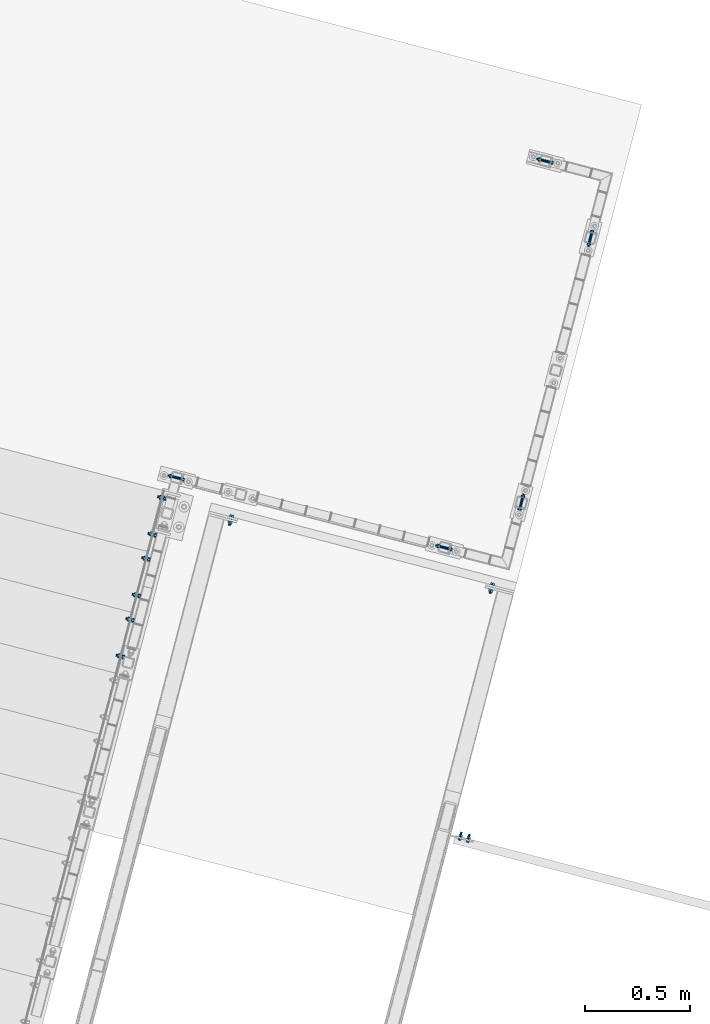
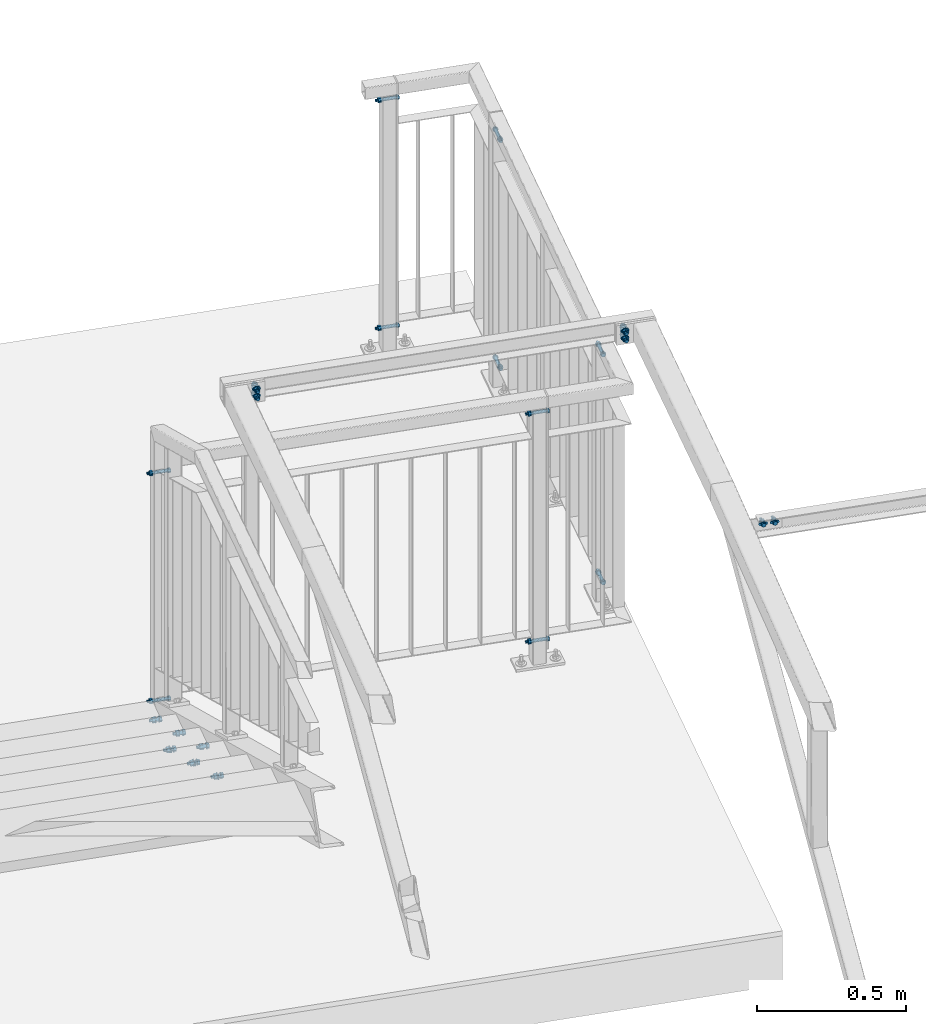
# One storey, part 163 of 169: 19 mechanical fasteners, 8 elements without a shape of their own.
"""IFC2X3 building model written with IfcOpenShell, lengths in millimetres."""

from ifc_helpers import new_model, si_unit, frame, frame_2d, origin_with_axes, origin_2d_with_axis, place, context, subcontext, project, spatial, polyline, circle_curve, parameter, trimmed, segment, composite_curve, circle, outline, extrude, source, transform, mapped, material, type_object, element, aggregate, save


model = new_model("IFC2X3")

# Units and contexts
model_context = context("Model", 3, precision=1e-05, world=origin_with_axes())
body_context = subcontext(model_context, "Body", "Model", "MODEL_VIEW")
ifc_project = project(units=[si_unit("LENGTHUNIT", "METRE", prefix="MILLI"), si_unit("AREAUNIT", "SQUARE_METRE"), si_unit("VOLUMEUNIT", "CUBIC_METRE"), si_unit("MASSUNIT", "GRAM", prefix="KILO"), si_unit("TIMEUNIT", "SECOND"), si_unit("PLANEANGLEUNIT", "RADIAN"), si_unit("SOLIDANGLEUNIT", "STERADIAN"), si_unit("THERMODYNAMICTEMPERATUREUNIT", "DEGREE_CELSIUS"), si_unit("LUMINOUSINTENSITYUNIT", "LUMEN")], contexts=[model_context])

# Site, building, storey
site_placement = place(None, origin_with_axes())
site = spatial("IfcSite", under=ifc_project, at=site_placement, Name="Undefined", CompositionType="ELEMENT")
building_placement = place(site_placement, origin_with_axes())
building = spatial("IfcBuilding", under=site, at=building_placement, Name="Undefined", CompositionType="ELEMENT")
storey_placement = place(building_placement, origin_with_axes())
storey = spatial("IfcBuildingStorey", under=building, at=storey_placement, Name="Undefined", CompositionType="ELEMENT", Elevation=0.0)

# Assembly, mechanical fasteners
assembly_1_placement = place(storey_placement, origin_with_axes())
assembly_1 = element("IfcElementAssembly", 1, at=assembly_1_placement, inside=storey, Name="Steel Assembly", AssemblyPlace="NOTDEFINED", PredefinedType="RIGID_FRAME")
ifc_material = material(Name="Undefined")
discrete_accessory_type = type_object("IfcDiscreteAccessoryType", Name="Bolt assembly")
shared_shape_1 = source(origin_with_axes(), body_context, "Body", "SweptSolid", [
    extrude(circle(Radius=6.5, at=origin_2d_with_axis()), frame((0.0, 4.89999999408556, 0.0), z_axis=(0.0, 1.0, 0.0), x_axis=(1.0, 0.0, 0.0)), (0.0, 0.0, 1.0), 50.1),
    extrude(circle(Radius=6.5, at=origin_2d_with_axis()), frame((0.0, 0.100000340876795, 0.0), z_axis=(0.0, 1.0, 0.0), x_axis=(1.0, 0.0, 0.0)), (0.0, 0.0, 1.0), 5.0),
    extrude(outline(polyline([(8.66025403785, 0.0), (4.330127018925, 7.50000000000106), (-4.330127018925, 7.50000000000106), (-8.66025403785, 0.0), (-4.330127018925, -7.50000000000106), (4.330127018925, -7.50000000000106), (8.66025403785, 0.0)])), frame((0.0, -8.39999975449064, 0.0), z_axis=(0.0, 1.0, 0.0), x_axis=(1.0, 0.0, 0.0)), (0.0, 0.0, 1.0), 6.4),
    extrude(circle(Radius=5.0, at=origin_2d_with_axis()), frame((0.0, -1.9999996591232, 0.0), z_axis=(0.0, 1.0, 0.0), x_axis=(1.0, 0.0, 0.0)), (0.0, 0.0, 1.0), 75.0),
    extrude(circle(Radius=10.0, at=origin_2d_with_axis()), frame((0.0, -1.9999996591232, 0.0), z_axis=(0.0, 1.0, 0.0), x_axis=(1.0, 0.0, 0.0)), (0.0, 0.0, 1.0), 2.0),
    extrude(circle(Radius=10.0, at=origin_2d_with_axis()), frame((0.0, 54.9999999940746, 0.0), z_axis=(0.0, 1.0, 0.0), x_axis=(1.0, 0.0, 0.0)), (0.0, 0.0, 1.0), 2.0),
    extrude(outline(polyline([(9.81495457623, 0.0), (4.907477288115, 8.5000000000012), (-4.907477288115, 8.5000000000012), (-9.81495457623, 0.0), (-4.907477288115, -8.5000000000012), (4.907477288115, -8.5000000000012), (9.81495457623, 0.0)])), frame((0.0, 56.999999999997, 0.0), z_axis=(0.0, 1.0, 0.0), x_axis=(1.0, 0.0, 0.0)), (0.0, 0.0, 1.0), 8.0),
])
mechanical_fastener_1_placement = place(assembly_1_placement, frame((-8605.63856249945, 20928.2923005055, 13590.4183763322), z_axis=(-2.54700353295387e-10, 0.0, -1.0), x_axis=(-0.252628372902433, -0.967563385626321, 0.0)))
mechanical_fastener_1 = element("IfcMechanicalFastener", 2, at=mechanical_fastener_1_placement, type_object=discrete_accessory_type, material=ifc_material, Name="Bolt assembly", NominalDiameter=10.0, NominalLength=75.0, context=body_context, shape_type="MappedRepresentation", body=[
    mapped(shared_shape_1, transform((0.0, 0.0, 0.0))),
])
mechanical_fastener_2_placement = place(assembly_1_placement, frame((-8605.63856251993, 20928.292300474, 12658.418376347), z_axis=(-2.54700353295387e-10, 0.0, -1.0), x_axis=(-0.252628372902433, -0.967563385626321, 0.0)))
mechanical_fastener_2 = element("IfcMechanicalFastener", 3, at=mechanical_fastener_2_placement, type_object=discrete_accessory_type, material=ifc_material, Name="Bolt assembly", NominalDiameter=10.0, NominalLength=75.0, context=body_context, shape_type="MappedRepresentation", body=[
    mapped(shared_shape_1, transform((0.0, 0.0, 0.0))),
])
mechanical_fastener_3_placement = place(assembly_1_placement, frame((-7003.7615079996, 20789.0977052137, 13590.4183763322), z_axis=(0.0, 0.0, 1.0), x_axis=(0.967563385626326, -0.252628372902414, 0.0)))
mechanical_fastener_3 = element("IfcMechanicalFastener", 4, at=mechanical_fastener_3_placement, type_object=discrete_accessory_type, material=ifc_material, Name="Bolt assembly", NominalDiameter=10.0, NominalLength=75.0, context=body_context, shape_type="MappedRepresentation", body=[
    mapped(shared_shape_1, transform((0.0, 0.0, 0.0))),
])
mechanical_fastener_4_placement = place(assembly_1_placement, frame((-7003.76150802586, 20789.0977051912, 12658.4183762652), z_axis=(0.0, 0.0, 1.0), x_axis=(0.967563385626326, -0.252628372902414, 0.0)))
mechanical_fastener_4 = element("IfcMechanicalFastener", 5, at=mechanical_fastener_4_placement, type_object=discrete_accessory_type, material=ifc_material, Name="Bolt assembly", NominalDiameter=10.0, NominalLength=75.0, context=body_context, shape_type="MappedRepresentation", body=[
    mapped(shared_shape_1, transform((0.0, 0.0, 0.0))),
])
mechanical_fastener_5_placement = place(assembly_1_placement, frame((-7333.21328269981, 20596.0652517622, 13590.4183763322), z_axis=(-2.54700353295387e-10, 0.0, -1.0), x_axis=(-0.252628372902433, -0.967563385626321, 0.0)))
mechanical_fastener_5 = element("IfcMechanicalFastener", 6, at=mechanical_fastener_5_placement, type_object=discrete_accessory_type, material=ifc_material, Name="Bolt assembly", NominalDiameter=10.0, NominalLength=75.0, context=body_context, shape_type="MappedRepresentation", body=[
    mapped(shared_shape_1, transform((0.0, 0.0, 0.0))),
])
mechanical_fastener_6_placement = place(assembly_1_placement, frame((-7333.21328271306, 20596.0652517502, 12658.418376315), z_axis=(-2.54700353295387e-10, 0.0, -1.0), x_axis=(-0.252628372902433, -0.967563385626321, 0.0)))
mechanical_fastener_6 = element("IfcMechanicalFastener", 7, at=mechanical_fastener_6_placement, type_object=discrete_accessory_type, material=ifc_material, Name="Bolt assembly", NominalDiameter=10.0, NominalLength=75.0, context=body_context, shape_type="MappedRepresentation", body=[
    mapped(shared_shape_1, transform((0.0, 0.0, 0.0))),
])
mechanical_fastener_7_placement = place(assembly_1_placement, frame((-6660.68984724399, 22103.0577081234, 13590.4183763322), z_axis=(-2.54700353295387e-10, 0.0, -1.0), x_axis=(0.967563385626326, -0.252628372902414, 0.0)))
mechanical_fastener_7 = element("IfcMechanicalFastener", 8, at=mechanical_fastener_7_placement, type_object=discrete_accessory_type, material=ifc_material, Name="Bolt assembly", NominalDiameter=10.0, NominalLength=75.0, context=body_context, shape_type="MappedRepresentation", body=[
    mapped(shared_shape_1, transform((0.0, 0.0, 0.0))),
])
mechanical_fastener_8_placement = place(assembly_1_placement, frame((-6660.68984725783, 22103.0577081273, 12658.4183763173), z_axis=(-2.54700353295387e-10, 0.0, -1.0), x_axis=(0.967563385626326, -0.252628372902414, 0.0)))
mechanical_fastener_8 = element("IfcMechanicalFastener", 9, at=mechanical_fastener_8_placement, type_object=discrete_accessory_type, material=ifc_material, Name="Bolt assembly", NominalDiameter=10.0, NominalLength=75.0, context=body_context, shape_type="MappedRepresentation", body=[
    mapped(shared_shape_1, transform((0.0, 0.0, 0.0))),
])
mechanical_fastener_9_placement = place(assembly_1_placement, frame((-6853.72230057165, 22432.5094828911, 13590.4183763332), z_axis=(0.0, 0.0, 1.0), x_axis=(0.252628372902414, 0.967563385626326, 0.0)))
mechanical_fastener_9 = element("IfcMechanicalFastener", 10, at=mechanical_fastener_9_placement, type_object=discrete_accessory_type, material=ifc_material, Name="Bolt assembly", NominalDiameter=10.0, NominalLength=75.0, context=body_context, shape_type="MappedRepresentation", body=[
    mapped(shared_shape_1, transform((0.0, 0.0, 0.0))),
])
mechanical_fastener_10_placement = place(assembly_1_placement, frame((-6853.72230059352, 22432.5094828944, 12658.418376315), z_axis=(0.0, 0.0, 1.0), x_axis=(0.252628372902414, 0.967563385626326, 0.0)))
mechanical_fastener_10 = element("IfcMechanicalFastener", 11, at=mechanical_fastener_10_placement, type_object=discrete_accessory_type, material=ifc_material, Name="Bolt assembly", NominalDiameter=10.0, NominalLength=75.0, context=body_context, shape_type="MappedRepresentation", body=[
    mapped(shared_shape_1, transform((0.0, 0.0, 0.0))),
])
aggregate(assembly_1, [mechanical_fastener_1, mechanical_fastener_2, mechanical_fastener_3, mechanical_fastener_4, mechanical_fastener_5, mechanical_fastener_6, mechanical_fastener_7, mechanical_fastener_8, mechanical_fastener_9, mechanical_fastener_10])

# Assembly, mechanical fastener
assembly_2_placement = place(storey_placement, origin_with_axes())
assembly_2 = element("IfcElementAssembly", 12, at=assembly_2_placement, inside=storey, Name="Steel Assembly", AssemblyPlace="NOTDEFINED", PredefinedType="RIGID_FRAME")
shared_shape_2 = source(origin_with_axes(), body_context, "Body", "SweptSolid", [
    extrude(circle(Radius=7.5, at=origin_2d_with_axis()), frame((0.0, -7.40000057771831, 0.0), z_axis=(0.0, 1.0, 0.0), x_axis=(1.0, 0.0, 0.0)), (0.0, 0.0, 1.0), 7.5),
    extrude(circle(Radius=7.5, at=origin_2d_with_axis()), frame((0.0, -0.100000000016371, 0.0), z_axis=(0.0, 1.0, 0.0), x_axis=(1.0, 0.0, 0.0)), (0.0, 0.0, 1.0), 3.1),
    extrude(outline(polyline([(10.39230484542, 0.0), (5.19615242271, 9.00000000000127), (-5.19615242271, 9.00000000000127), (-10.39230484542, 0.0), (-5.19615242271, -9.00000000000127), (5.19615242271, -9.00000000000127), (10.39230484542, 0.0)])), frame((0.0, -17.5000005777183, 0.0), z_axis=(0.0, 1.0, 0.0), x_axis=(1.0, 0.0, 0.0)), (0.0, 0.0, 1.0), 7.5),
    extrude(circle(Radius=6.0, at=origin_2d_with_axis()), frame((0.0, -10.0, 0.0), z_axis=(0.0, 1.0, 0.0), x_axis=(1.0, 0.0, 0.0)), (0.0, 0.0, 1.0), 35.0),
    extrude(circle(Radius=12.0, at=origin_2d_with_axis()), frame((0.0, -10.0, 0.0), z_axis=(0.0, 1.0, 0.0), x_axis=(1.0, 0.0, 0.0)), (0.0, 0.0, 1.0), 2.5),
    extrude(circle(Radius=12.0, at=origin_2d_with_axis()), frame((0.0, 2.99999999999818, 0.0), z_axis=(0.0, 1.0, 0.0), x_axis=(1.0, 0.0, 0.0)), (0.0, 0.0, 1.0), 2.5),
    extrude(outline(polyline([(10.96965511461, 0.0), (5.484827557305, 9.50000000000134), (-5.484827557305, 9.50000000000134), (-10.96965511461, 0.0), (-5.484827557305, -9.50000000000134), (5.484827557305, -9.50000000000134), (10.96965511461, 0.0)])), frame((0.0, 5.50000000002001, 0.0), z_axis=(0.0, 1.0, 0.0), x_axis=(1.0, 0.0, 0.0)), (0.0, 0.0, 1.0), 10.0),
])
mechanical_fastener_11_placement = place(assembly_2_placement, frame((-8843.33969413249, 20294.9869087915, 12968.5365255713), z_axis=(-2.54700353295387e-10, 0.0, -1.0), x_axis=(-0.252628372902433, -0.967563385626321, 0.0)))
mechanical_fastener_11 = element("IfcMechanicalFastener", 13, at=mechanical_fastener_11_placement, type_object=discrete_accessory_type, material=ifc_material, Name="Bolt assembly", NominalDiameter=12.0, NominalLength=35.0, context=body_context, shape_type="MappedRepresentation", body=[
    mapped(shared_shape_2, transform((35.0000000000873, 1.45519152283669e-11, 15.0))),
])

assembly_3_placement = place(storey_placement, origin_with_axes())
assembly_3 = element("IfcElementAssembly", 14, at=assembly_3_placement, inside=storey, Name="Steel Assembly", AssemblyPlace="NOTDEFINED", PredefinedType="RIGID_FRAME")
mechanical_fastener_12_placement = place(assembly_3_placement, frame((-8767.78848893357, 20584.3470429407, 12821.1249424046), z_axis=(-2.54700353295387e-10, 0.0, -1.0), x_axis=(-0.252628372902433, -0.967563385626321, 0.0)))
mechanical_fastener_12 = element("IfcMechanicalFastener", 15, at=mechanical_fastener_12_placement, type_object=discrete_accessory_type, material=ifc_material, Name="Bolt assembly", NominalDiameter=12.0, NominalLength=35.0, context=body_context, shape_type="MappedRepresentation", body=[
    mapped(shared_shape_2, transform((35.0000000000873, 1.45519152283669e-11, 15.0))),
])

# Mechanical fastener
shared_shape_3 = source(origin_with_axes(), body_context, "Body", "SweptSolid", [
    extrude(circle(Radius=7.5, at=origin_2d_with_axis()), frame((0.0, -7.40000057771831, 0.0), z_axis=(0.0, 1.0, 0.0), x_axis=(1.0, 0.0, 0.0)), (0.0, 0.0, 1.0), 7.5),
    extrude(outline(composite_curve([segment(polyline([(-10.0, 7.5), (10.0, 7.5)]), True, "CONTINUOUS"), segment(trimmed(circle_curve(frame_2d((10.0, 0.0), x_axis=(0.0, 1.0)), 7.5), [parameter(0.0)], [parameter(3.14159265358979)], False, "PARAMETER"), True, "CONTINUOUS"), segment(polyline([(10.0, -7.5), (-10.0, -7.5)]), True, "CONTINUOUS"), segment(trimmed(circle_curve(frame_2d((-10.0, 0.0), x_axis=(0.0, -1.0)), 7.5), [parameter(0.0)], [parameter(3.14159265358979)], False, "PARAMETER"), True, "DISCONTINUOUS")], self_intersect=False)), frame((0.0, -0.100000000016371, 0.0), z_axis=(0.0, 1.0, 0.0), x_axis=(1.0, 0.0, 0.0)), (0.0, 0.0, 1.0), 3.1),
    extrude(outline(polyline([(10.39230484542, 0.0), (5.19615242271, 9.00000000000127), (-5.19615242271, 9.00000000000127), (-10.39230484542, 0.0), (-5.19615242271, -9.00000000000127), (5.19615242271, -9.00000000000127), (10.39230484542, 0.0)])), frame((0.0, -17.5000005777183, 0.0), z_axis=(0.0, 1.0, 0.0), x_axis=(1.0, 0.0, 0.0)), (0.0, 0.0, 1.0), 7.5),
    extrude(circle(Radius=6.0, at=origin_2d_with_axis()), frame((0.0, -10.0, 0.0), z_axis=(0.0, 1.0, 0.0), x_axis=(1.0, 0.0, 0.0)), (0.0, 0.0, 1.0), 35.0),
    extrude(circle(Radius=12.0, at=origin_2d_with_axis()), frame((0.0, -10.0, 0.0), z_axis=(0.0, 1.0, 0.0), x_axis=(1.0, 0.0, 0.0)), (0.0, 0.0, 1.0), 2.5),
    extrude(circle(Radius=12.0, at=origin_2d_with_axis()), frame((0.0, 2.99999999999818, 0.0), z_axis=(0.0, 1.0, 0.0), x_axis=(1.0, 0.0, 0.0)), (0.0, 0.0, 1.0), 2.5),
    extrude(outline(polyline([(10.96965511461, 0.0), (5.484827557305, 9.50000000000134), (-5.484827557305, 9.50000000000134), (-10.96965511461, 0.0), (-5.484827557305, -9.50000000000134), (5.484827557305, -9.50000000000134), (10.96965511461, 0.0)])), frame((0.0, 5.50000000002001, 0.0), z_axis=(0.0, 1.0, 0.0), x_axis=(1.0, 0.0, 0.0)), (0.0, 0.0, 1.0), 10.0),
])
mechanical_fastener_13_placement = place(assembly_2_placement, frame((-8843.33969413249, 20294.9869087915, 12968.5365255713), z_axis=(-2.54700353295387e-10, 0.0, -1.0), x_axis=(-0.252628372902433, -0.967563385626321, 0.0)))
mechanical_fastener_13 = element("IfcMechanicalFastener", 16, at=mechanical_fastener_13_placement, type_object=discrete_accessory_type, material=ifc_material, Name="Bolt assembly", NominalDiameter=12.0, NominalLength=35.0, context=body_context, shape_type="MappedRepresentation", body=[
    mapped(shared_shape_3, transform((215.000000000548, 9.82254277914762e-11, 15.0))),
])

aggregate(assembly_2, [mechanical_fastener_13, mechanical_fastener_11])

shared_shape_4 = source(origin_with_axes(), body_context, "Body", "SweptSolid", [
    extrude(circle(Radius=7.5, at=origin_2d_with_axis()), frame((0.0, -7.40000057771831, 0.0), z_axis=(0.0, 1.0, 0.0), x_axis=(1.0, 0.0, 0.0)), (0.0, 0.0, 1.0), 7.5),
    extrude(outline(composite_curve([segment(polyline([(-10.0, 7.5), (10.0, 7.5)]), True, "CONTINUOUS"), segment(trimmed(circle_curve(frame_2d((10.0, 0.0), x_axis=(0.0, 1.0)), 7.5), [parameter(0.0)], [parameter(3.14159265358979)], False, "PARAMETER"), True, "CONTINUOUS"), segment(polyline([(10.0, -7.5), (-10.0, -7.5)]), True, "CONTINUOUS"), segment(trimmed(circle_curve(frame_2d((-10.0, 0.0), x_axis=(0.0, -1.0)), 7.5), [parameter(0.0)], [parameter(3.14159265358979)], False, "PARAMETER"), True, "DISCONTINUOUS")], self_intersect=False)), frame((0.0, -0.100000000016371, 0.0), z_axis=(0.0, 1.0, 0.0), x_axis=(1.0, 0.0, 0.0)), (0.0, 0.0, 1.0), 3.1),
    extrude(outline(polyline([(10.39230484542, 0.0), (5.19615242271, 9.00000000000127), (-5.19615242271, 9.00000000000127), (-10.39230484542, 0.0), (-5.19615242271, -9.00000000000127), (5.19615242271, -9.00000000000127), (10.39230484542, 0.0)])), frame((0.0, -17.5000005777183, 0.0), z_axis=(0.0, 1.0, 0.0), x_axis=(1.0, 0.0, 0.0)), (0.0, 0.0, 1.0), 7.5),
    extrude(circle(Radius=6.0, at=origin_2d_with_axis()), frame((0.0, -10.0, 0.0), z_axis=(0.0, 1.0, 0.0), x_axis=(1.0, 0.0, 0.0)), (0.0, 0.0, 1.0), 35.0),
    extrude(circle(Radius=12.0, at=origin_2d_with_axis()), frame((0.0, -10.0, 0.0), z_axis=(0.0, 1.0, 0.0), x_axis=(1.0, 0.0, 0.0)), (0.0, 0.0, 1.0), 2.5),
    extrude(circle(Radius=12.0, at=origin_2d_with_axis()), frame((0.0, 2.99999999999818, 0.0), z_axis=(0.0, 1.0, 0.0), x_axis=(1.0, 0.0, 0.0)), (0.0, 0.0, 1.0), 2.5),
    extrude(outline(polyline([(10.96965511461, 0.0), (5.484827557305, 9.50000000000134), (-5.484827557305, 9.50000000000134), (-10.96965511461, 0.0), (-5.484827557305, -9.50000000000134), (5.484827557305, -9.50000000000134), (10.96965511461, 0.0)])), frame((0.0, 5.50000000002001, 0.0), z_axis=(0.0, 1.0, 0.0), x_axis=(1.0, 0.0, 0.0)), (0.0, 0.0, 1.0), 10.0),
])
mechanical_fastener_14_placement = place(assembly_3_placement, frame((-8767.78848893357, 20584.3470429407, 12821.1249424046), z_axis=(-2.54700353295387e-10, 0.0, -1.0), x_axis=(-0.252628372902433, -0.967563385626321, 0.0)))
mechanical_fastener_14 = element("IfcMechanicalFastener", 17, at=mechanical_fastener_14_placement, type_object=discrete_accessory_type, material=ifc_material, Name="Bolt assembly", NominalDiameter=12.0, NominalLength=35.0, context=body_context, shape_type="MappedRepresentation", body=[
    mapped(shared_shape_4, transform((215.000000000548, 9.82254277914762e-11, 15.0))),
])

aggregate(assembly_3, [mechanical_fastener_14, mechanical_fastener_12])

# Assembly, mechanical fastener
assembly_4_placement = place(storey_placement, origin_with_axes())
assembly_4 = element("IfcElementAssembly", 18, at=assembly_4_placement, inside=storey, Name="Steel Assembly", AssemblyPlace="NOTDEFINED", PredefinedType="RIGID_FRAME")
shared_shape_5 = source(origin_with_axes(), body_context, "Body", "SweptSolid", [
    extrude(circle(Radius=7.5, at=origin_2d_with_axis()), frame((0.0, -7.40000057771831, 0.0), z_axis=(0.0, 1.0, 0.0), x_axis=(1.0, 0.0, 0.0)), (0.0, 0.0, 1.0), 7.5),
    extrude(outline(composite_curve([segment(polyline([(-10.0, 7.5), (10.0, 7.5)]), True, "CONTINUOUS"), segment(trimmed(circle_curve(frame_2d((10.0, 0.0), x_axis=(0.0, 1.0)), 7.5), [parameter(0.0)], [parameter(3.14159265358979)], False, "PARAMETER"), True, "CONTINUOUS"), segment(polyline([(10.0, -7.5), (-10.0, -7.5)]), True, "CONTINUOUS"), segment(trimmed(circle_curve(frame_2d((-10.0, 0.0), x_axis=(0.0, -1.0)), 7.5), [parameter(0.0)], [parameter(3.14159265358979)], False, "PARAMETER"), True, "DISCONTINUOUS")], self_intersect=False)), frame((0.0, -0.100000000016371, 0.0), z_axis=(0.0, 1.0, 0.0), x_axis=(1.0, 0.0, 0.0)), (0.0, 0.0, 1.0), 3.1),
    extrude(outline(polyline([(10.39230484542, 0.0), (5.19615242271, 9.00000000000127), (-5.19615242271, 9.00000000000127), (-10.39230484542, 0.0), (-5.19615242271, -9.00000000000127), (5.19615242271, -9.00000000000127), (10.39230484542, 0.0)])), frame((0.0, -17.5000005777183, 0.0), z_axis=(0.0, 1.0, 0.0), x_axis=(1.0, 0.0, 0.0)), (0.0, 0.0, 1.0), 7.5),
    extrude(circle(Radius=6.0, at=origin_2d_with_axis()), frame((0.0, -10.0, 0.0), z_axis=(0.0, 1.0, 0.0), x_axis=(1.0, 0.0, 0.0)), (0.0, 0.0, 1.0), 35.0),
    extrude(circle(Radius=12.0, at=origin_2d_with_axis()), frame((0.0, -10.0, 0.0), z_axis=(0.0, 1.0, 0.0), x_axis=(1.0, 0.0, 0.0)), (0.0, 0.0, 1.0), 2.5),
    extrude(circle(Radius=12.0, at=origin_2d_with_axis()), frame((0.0, 2.99999999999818, 0.0), z_axis=(0.0, 1.0, 0.0), x_axis=(1.0, 0.0, 0.0)), (0.0, 0.0, 1.0), 2.5),
    extrude(outline(polyline([(10.96965511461, 0.0), (5.484827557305, 9.50000000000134), (-5.484827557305, 9.50000000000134), (-10.96965511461, 0.0), (-5.484827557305, -9.50000000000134), (5.484827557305, -9.50000000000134), (10.96965511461, 0.0)])), frame((0.0, 5.50000000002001, 0.0), z_axis=(0.0, 1.0, 0.0), x_axis=(1.0, 0.0, 0.0)), (0.0, 0.0, 1.0), 10.0),
])
mechanical_fastener_15_placement = place(assembly_4_placement, frame((-8692.23728373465, 20873.7071770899, 12673.713359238), z_axis=(-2.54700353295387e-10, 0.0, -1.0), x_axis=(-0.252628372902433, -0.967563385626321, 0.0)))
mechanical_fastener_15 = element("IfcMechanicalFastener", 19, at=mechanical_fastener_15_placement, type_object=discrete_accessory_type, material=ifc_material, Name="Bolt assembly", NominalDiameter=12.0, NominalLength=35.0, context=body_context, shape_type="MappedRepresentation", body=[
    mapped(shared_shape_5, transform((215.000000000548, 9.82254277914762e-11, 15.0))),
])
aggregate(assembly_4, [mechanical_fastener_15])

assembly_5_placement = place(storey_placement, origin_with_axes())
assembly_5 = element("IfcElementAssembly", 20, at=assembly_5_placement, inside=storey, Name="Steel Assembly", AssemblyPlace="NOTDEFINED", PredefinedType="RIGID_FRAME")
shared_shape_6 = source(origin_with_axes(), body_context, "Body", "SweptSolid", [
    extrude(circle(Radius=7.5, at=origin_2d_with_axis()), frame((0.0, -0.100000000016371, 0.0), z_axis=(0.0, 1.0, 0.0), x_axis=(1.0, 0.0, 0.0)), (0.0, 0.0, 1.0), 3.1),
    extrude(circle(Radius=7.5, at=origin_2d_with_axis()), frame((0.0, -7.40000057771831, 0.0), z_axis=(0.0, 1.0, 0.0), x_axis=(1.0, 0.0, 0.0)), (0.0, 0.0, 1.0), 7.5),
    extrude(outline(polyline([(10.39230484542, 0.0), (5.19615242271, 9.00000000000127), (-5.19615242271, 9.00000000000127), (-10.39230484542, 0.0), (-5.19615242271, -9.00000000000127), (5.19615242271, -9.00000000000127), (10.39230484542, 0.0)])), frame((0.0, -17.5000005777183, 0.0), z_axis=(0.0, 1.0, 0.0), x_axis=(1.0, 0.0, 0.0)), (0.0, 0.0, 1.0), 7.5),
    extrude(circle(Radius=6.0, at=origin_2d_with_axis()), frame((0.0, -10.0, 0.0), z_axis=(0.0, 1.0, 0.0), x_axis=(1.0, 0.0, 0.0)), (0.0, 0.0, 1.0), 35.0),
    extrude(circle(Radius=12.0, at=origin_2d_with_axis()), frame((0.0, -10.0, 0.0), z_axis=(0.0, 1.0, 0.0), x_axis=(1.0, 0.0, 0.0)), (0.0, 0.0, 1.0), 2.5),
    extrude(circle(Radius=12.0, at=origin_2d_with_axis()), frame((0.0, 2.99999999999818, 0.0), z_axis=(0.0, 1.0, 0.0), x_axis=(1.0, 0.0, 0.0)), (0.0, 0.0, 1.0), 2.5),
    extrude(outline(polyline([(10.96965511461, 0.0), (5.484827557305, 9.50000000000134), (-5.484827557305, 9.50000000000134), (-10.96965511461, 0.0), (-5.484827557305, -9.50000000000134), (5.484827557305, -9.50000000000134), (10.96965511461, 0.0)])), frame((0.0, 5.50000000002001, 0.0), z_axis=(0.0, 1.0, 0.0), x_axis=(1.0, 0.0, 0.0)), (0.0, 0.0, 1.0), 10.0),
])
mechanical_fastener_16_placement = place(assembly_5_placement, frame((-8692.23728373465, 20873.7071770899, 12673.713359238), z_axis=(-2.54700353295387e-10, 0.0, -1.0), x_axis=(-0.252628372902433, -0.967563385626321, 0.0)))
mechanical_fastener_16 = element("IfcMechanicalFastener", 21, at=mechanical_fastener_16_placement, type_object=discrete_accessory_type, material=ifc_material, Name="Bolt assembly", NominalDiameter=12.0, NominalLength=35.0, context=body_context, shape_type="MappedRepresentation", body=[
    mapped(shared_shape_6, transform((35.0000000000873, 1.45519152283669e-11, 15.0))),
])
aggregate(assembly_5, [mechanical_fastener_16])

assembly_6_placement = place(storey_placement, origin_with_axes())
assembly_6 = element("IfcElementAssembly", 22, at=assembly_6_placement, inside=storey, Name="Steel Assembly", AssemblyPlace="NOTDEFINED", PredefinedType="RIGID_FRAME")
shared_shape_7 = source(origin_with_axes(), body_context, "Body", "SweptSolid", [
    extrude(outline(composite_curve([segment(polyline([(6.0, 10.0), (6.0, -10.0)]), True, "CONTINUOUS"), segment(trimmed(circle_curve(frame_2d((0.0, -10.0), x_axis=(1.0, 0.0)), 6.0), [parameter(0.0)], [parameter(3.14159265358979)], False, "PARAMETER"), True, "CONTINUOUS"), segment(polyline([(-6.0, -10.0), (-6.0, 10.0)]), True, "CONTINUOUS"), segment(trimmed(circle_curve(frame_2d((0.0, 10.0), x_axis=(-1.0, 0.0)), 6.0), [parameter(0.0)], [parameter(3.14159265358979)], False, "PARAMETER"), True, "DISCONTINUOUS")], self_intersect=False)), frame((0.0, -5.89997732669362, 0.0), z_axis=(0.0, 1.0, 0.0), x_axis=(1.0, 0.0, 0.0)), (0.0, 0.0, 1.0), 6.0),
    extrude(outline(composite_curve([segment(polyline([(-10.0, 6.0), (10.0, 6.0)]), True, "CONTINUOUS"), segment(trimmed(circle_curve(frame_2d((10.0, 0.0), x_axis=(0.0, 1.0)), 6.0), [parameter(0.0)], [parameter(3.14159265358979)], False, "PARAMETER"), True, "CONTINUOUS"), segment(polyline([(10.0, -6.0), (-10.0, -6.0)]), True, "CONTINUOUS"), segment(trimmed(circle_curve(frame_2d((-10.0, 0.0), x_axis=(0.0, -1.0)), 6.0), [parameter(0.0)], [parameter(3.14159265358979)], False, "PARAMETER"), True, "DISCONTINUOUS")], self_intersect=False)), frame((0.0, -0.100000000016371, 0.0), z_axis=(0.0, 1.0, 0.0), x_axis=(1.0, 0.0, 0.0)), (0.0, 0.0, 1.0), 4.1),
    extrude(outline(polyline([(8.66025403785, 0.0), (4.330127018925, 7.50000000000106), (-4.330127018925, 7.50000000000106), (-8.66025403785, 0.0), (-4.330127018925, -7.50000000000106), (4.330127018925, -7.50000000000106), (8.66025403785, 0.0)])), frame((0.0, -14.3999774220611, 0.0), z_axis=(0.0, 1.0, 0.0), x_axis=(1.0, 0.0, 0.0)), (0.0, 0.0, 1.0), 6.4),
    extrude(circle(Radius=5.0, at=origin_2d_with_axis()), frame((0.0, -8.00000000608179, 0.0), z_axis=(0.0, 1.0, 0.0), x_axis=(1.0, 0.0, 0.0)), (0.0, 0.0, 1.0), 35.0),
    extrude(circle(Radius=10.0, at=origin_2d_with_axis()), frame((0.0, -8.00000000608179, 0.0), z_axis=(0.0, 1.0, 0.0), x_axis=(1.0, 0.0, 0.0)), (0.0, 0.0, 1.0), 2.0),
    extrude(circle(Radius=10.0, at=origin_2d_with_axis()), frame((0.0, 3.99999999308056, 0.0), z_axis=(0.0, 1.0, 0.0), x_axis=(1.0, 0.0, 0.0)), (0.0, 0.0, 1.0), 2.0),
    extrude(outline(polyline([(9.81495457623, 0.0), (4.907477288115, 8.5000000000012), (-4.907477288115, 8.5000000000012), (-9.81495457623, 0.0), (-4.907477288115, -8.5000000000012), (4.907477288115, -8.5000000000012), (9.81495457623, 0.0)])), frame((0.0, 5.99999999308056, 0.0), z_axis=(0.0, 1.0, 0.0), x_axis=(1.0, 0.0, 0.0)), (0.0, 0.0, 1.0), 8.0),
])
mechanical_fastener_17_placement = place(assembly_6_placement, frame((-7331.13217008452, 19238.3843864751, 13980.4856101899), z_axis=(0.967563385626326, -0.252628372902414, 0.0), x_axis=(-2.54700353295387e-10, 0.0, -1.0)))
mechanical_fastener_17 = element("IfcMechanicalFastener", 23, at=mechanical_fastener_17_placement, type_object=discrete_accessory_type, material=ifc_material, Name="Bolt assembly", NominalDiameter=10.0, NominalLength=35.0, context=body_context, shape_type="MappedRepresentation", body=[
    mapped(shared_shape_7, transform((34.9999999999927, -1.60071067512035e-10, 44.9999999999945))),
    mapped(shared_shape_7, transform((34.9999999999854, -2.7648638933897e-10, 84.9999999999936))),
])
aggregate(assembly_6, [mechanical_fastener_17])

assembly_7_placement = place(storey_placement, origin_with_axes())
assembly_7 = element("IfcElementAssembly", 24, at=assembly_7_placement, inside=storey, Name="Steel Assembly", AssemblyPlace="NOTDEFINED", PredefinedType="RIGID_FRAME")
shared_shape_8 = source(origin_with_axes(), body_context, "Body", "SweptSolid", [
    extrude(circle(Radius=7.5, at=origin_2d_with_axis()), frame((0.0, -10.3999999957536, 0.0), z_axis=(0.0, 1.0, 0.0), x_axis=(1.0, 0.0, 0.0)), (0.0, 0.0, 1.0), 10.0),
    extrude(outline(composite_curve([segment(polyline([(7.5, 7.5), (7.5, -7.5)]), True, "CONTINUOUS"), segment(trimmed(circle_curve(frame_2d((0.0, -7.5), x_axis=(1.0, 0.0)), 7.5), [parameter(0.0)], [parameter(3.14159265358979)], False, "PARAMETER"), True, "CONTINUOUS"), segment(polyline([(-7.5, -7.5), (-7.5, 7.5)]), True, "CONTINUOUS"), segment(trimmed(circle_curve(frame_2d((0.0, 7.5), x_axis=(-1.0, 0.0)), 7.5), [parameter(0.0)], [parameter(3.14159265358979)], False, "PARAMETER"), True, "DISCONTINUOUS")], self_intersect=False)), frame((0.0, 0.400000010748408, 0.0), z_axis=(0.0, 1.0, 0.0), x_axis=(1.0, 0.0, 0.0)), (0.0, 0.0, 1.0), 10.1),
    extrude(outline(polyline([(10.39230484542, 0.0), (5.19615242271, 9.00000000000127), (-5.19615242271, 9.00000000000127), (-10.39230484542, 0.0), (-5.19615242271, -9.00000000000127), (5.19615242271, -9.00000000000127), (10.39230484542, 0.0)])), frame((0.0, -20.9999999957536, 0.0), z_axis=(0.0, 1.0, 0.0), x_axis=(1.0, 0.0, 0.0)), (0.0, 0.0, 1.0), 7.5),
    extrude(circle(Radius=6.0, at=origin_2d_with_axis()), frame((0.0, -13.4999999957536, 0.0), z_axis=(0.0, 1.0, 0.0), x_axis=(1.0, 0.0, 0.0)), (0.0, 0.0, 1.0), 45.0),
    extrude(circle(Radius=12.0, at=origin_2d_with_axis()), frame((0.0, -13.4999999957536, 0.0), z_axis=(0.0, 1.0, 0.0), x_axis=(1.0, 0.0, 0.0)), (0.0, 0.0, 1.0), 3.0),
    extrude(circle(Radius=12.0, at=origin_2d_with_axis()), frame((0.0, 10.500000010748, 0.0), z_axis=(0.0, 1.0, 0.0), x_axis=(1.0, 0.0, 0.0)), (0.0, 0.0, 1.0), 3.0),
    extrude(outline(polyline([(10.96965511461, 0.0), (5.484827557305, 9.50000000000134), (-5.484827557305, 9.50000000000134), (-10.96965511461, 0.0), (-5.484827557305, -9.50000000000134), (5.484827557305, -9.50000000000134), (10.96965511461, 0.0)])), frame((0.0, 13.500000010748, 0.0), z_axis=(0.0, 1.0, 0.0), x_axis=(1.0, 0.0, 0.0)), (0.0, 0.0, 1.0), 10.0),
])
mechanical_fastener_18_placement = place(assembly_7_placement, frame((-7069.73116217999, 20397.8819359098, 13990.417607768), z_axis=(-0.967563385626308, 0.252628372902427, -1.72000000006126e-07), x_axis=(-2.54700353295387e-10, 0.0, -1.0)))
mechanical_fastener_18 = element("IfcMechanicalFastener", 25, at=mechanical_fastener_18_placement, type_object=discrete_accessory_type, material=ifc_material, Name="Bolt assembly", NominalDiameter=12.0, NominalLength=45.0, context=body_context, shape_type="MappedRepresentation", body=[
    mapped(shared_shape_8, transform((25.0000000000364, -5.45696821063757e-11, 70.0000000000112))),
    mapped(shared_shape_8, transform((55.0000000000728, -7.27595761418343e-11, 70.0000000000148))),
])
aggregate(assembly_7, [mechanical_fastener_18])

assembly_8_placement = place(storey_placement, origin_with_axes())
assembly_8 = element("IfcElementAssembly", 26, at=assembly_8_placement, inside=storey, Name="Steel Assembly", AssemblyPlace="NOTDEFINED", PredefinedType="RIGID_FRAME")
shared_shape_9 = source(origin_with_axes(), body_context, "Body", "SweptSolid", [
    extrude(circle(Radius=7.5, at=origin_2d_with_axis()), frame((0.0, -10.3999999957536, 0.0), z_axis=(0.0, 1.0, 0.0), x_axis=(1.0, 0.0, 0.0)), (0.0, 0.0, 1.0), 10.0),
    extrude(outline(composite_curve([segment(polyline([(7.5, 7.5), (7.5, -7.5)]), True, "CONTINUOUS"), segment(trimmed(circle_curve(frame_2d((0.0, -7.5), x_axis=(1.0, 0.0)), 7.5), [parameter(0.0)], [parameter(3.14159265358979)], False, "PARAMETER"), True, "CONTINUOUS"), segment(polyline([(-7.5, -7.5), (-7.5, 7.5)]), True, "CONTINUOUS"), segment(trimmed(circle_curve(frame_2d((0.0, 7.5), x_axis=(-1.0, 0.0)), 7.5), [parameter(0.0)], [parameter(3.14159265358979)], False, "PARAMETER"), True, "DISCONTINUOUS")], self_intersect=False)), frame((0.0, 0.400000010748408, 0.0), z_axis=(0.0, 1.0, 0.0), x_axis=(1.0, 0.0, 0.0)), (0.0, 0.0, 1.0), 10.1),
    extrude(outline(polyline([(10.39230484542, 0.0), (5.19615242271, 9.00000000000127), (-5.19615242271, 9.00000000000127), (-10.39230484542, 0.0), (-5.19615242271, -9.00000000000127), (5.19615242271, -9.00000000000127), (10.39230484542, 0.0)])), frame((0.0, -20.9999999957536, 0.0), z_axis=(0.0, 1.0, 0.0), x_axis=(1.0, 0.0, 0.0)), (0.0, 0.0, 1.0), 7.5),
    extrude(circle(Radius=6.0, at=origin_2d_with_axis()), frame((0.0, -13.4999999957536, 0.0), z_axis=(0.0, 1.0, 0.0), x_axis=(1.0, 0.0, 0.0)), (0.0, 0.0, 1.0), 45.0),
    extrude(circle(Radius=12.0, at=origin_2d_with_axis()), frame((0.0, -13.4999999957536, 0.0), z_axis=(0.0, 1.0, 0.0), x_axis=(1.0, 0.0, 0.0)), (0.0, 0.0, 1.0), 3.0),
    extrude(circle(Radius=12.0, at=origin_2d_with_axis()), frame((0.0, 10.500000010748, 0.0), z_axis=(0.0, 1.0, 0.0), x_axis=(1.0, 0.0, 0.0)), (0.0, 0.0, 1.0), 3.0),
    extrude(outline(polyline([(10.96965511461, 0.0), (5.484827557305, 9.50000000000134), (-5.484827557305, 9.50000000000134), (-10.96965511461, 0.0), (-5.484827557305, -9.50000000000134), (5.484827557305, -9.50000000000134), (10.96965511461, 0.0)])), frame((0.0, 13.500000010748, 0.0), z_axis=(0.0, 1.0, 0.0), x_axis=(1.0, 0.0, 0.0)), (0.0, 0.0, 1.0), 10.0),
])
mechanical_fastener_19_placement = place(assembly_8_placement, frame((-8443.67116885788, 20756.6142251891, 13910.4176077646), z_axis=(0.967563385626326, -0.252628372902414, 0.0), x_axis=(0.0, 0.0, 1.0)))
mechanical_fastener_19 = element("IfcMechanicalFastener", 27, at=mechanical_fastener_19_placement, type_object=discrete_accessory_type, material=ifc_material, Name="Bolt assembly", NominalDiameter=12.0, NominalLength=45.0, context=body_context, shape_type="MappedRepresentation", body=[
    mapped(shared_shape_9, transform((25.0000000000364, -5.45696821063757e-11, 70.0000000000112))),
    mapped(shared_shape_9, transform((55.0000000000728, -7.27595761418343e-11, 70.0000000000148))),
])
aggregate(assembly_8, [mechanical_fastener_19])

save(model, "model.ifc")
